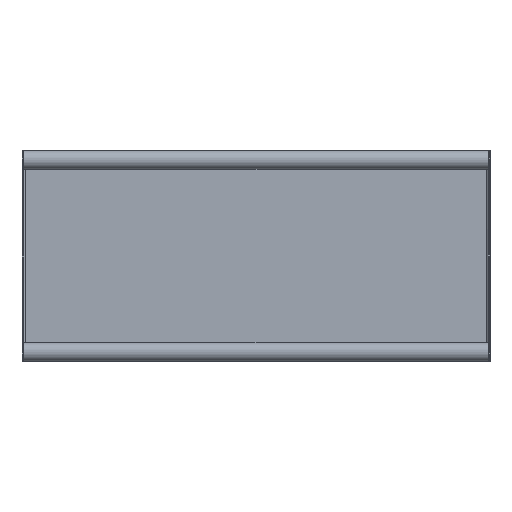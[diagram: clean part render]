
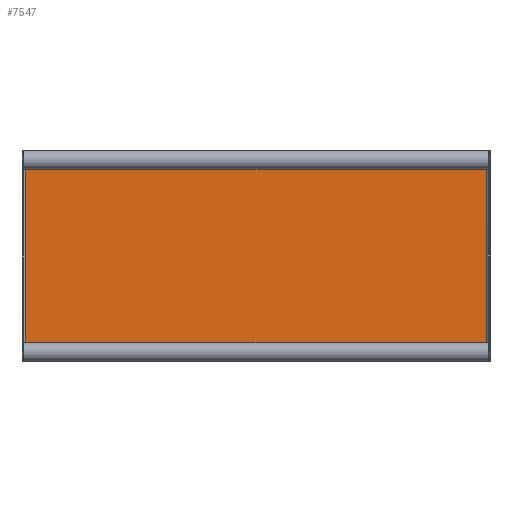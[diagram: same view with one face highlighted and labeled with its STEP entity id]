
A CAD part, front view. The second image highlights one B-rep face of the part: STEP entity #7547.
In plain terms, the highlighted planar face has unit normal (0, -1, 0).
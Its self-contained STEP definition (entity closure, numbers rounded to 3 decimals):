
#82 = CARTESIAN_POINT ( 'NONE',  ( 245., -2., -108.5 ) ) ;
#406 = DIRECTION ( 'NONE',  ( 0., 0., 1. ) ) ;
#441 = VERTEX_POINT ( 'NONE', #2831 ) ;
#469 = ORIENTED_EDGE ( 'NONE', *, *, #2490, .F. ) ;
#489 = DIRECTION ( 'NONE',  ( 0., 1., 0. ) ) ;
#516 = EDGE_CURVE ( 'NONE', #1546, #2596, #5884, .T. ) ;
#536 = ORIENTED_EDGE ( 'NONE', *, *, #1633, .F. ) ;
#566 = DIRECTION ( 'NONE',  ( 0., -1., 0. ) ) ;
#596 = DIRECTION ( 'NONE',  ( 0., -1., 0. ) ) ;
#629 = AXIS2_PLACEMENT_3D ( 'NONE', #2066, #5118, #3514 ) ;
#646 = CARTESIAN_POINT ( 'NONE',  ( 245., -2., 108.5 ) ) ;
#746 = CIRCLE ( 'NONE', #8592, 5. ) ;
#758 = ORIENTED_EDGE ( 'NONE', *, *, #7606, .F. ) ;
#1174 = CARTESIAN_POINT ( 'NONE',  ( 246., -2., -111.5 ) ) ;
#1546 = VERTEX_POINT ( 'NONE', #646 ) ;
#1608 = VECTOR ( 'NONE', #4203, 1000. ) ;
#1633 = EDGE_CURVE ( 'NONE', #5089, #1546, #4723, .T. ) ;
#2066 = CARTESIAN_POINT ( 'NONE',  ( 249., -2., -111.5 ) ) ;
#2255 = CARTESIAN_POINT ( 'NONE',  ( -246., -2., 107.5 ) ) ;
#2350 = CARTESIAN_POINT ( 'NONE',  ( -249., -2., 108.5 ) ) ;
#2490 = EDGE_CURVE ( 'NONE', #5266, #5089, #746, .T. ) ;
#2563 = CARTESIAN_POINT ( 'NONE',  ( -245., -2., 108.5 ) ) ;
#2596 = VERTEX_POINT ( 'NONE', #9187 ) ;
#2696 = LINE ( 'NONE', #8820, #8003 ) ;
#2709 = DIRECTION ( 'NONE',  ( 0., 0., 1. ) ) ;
#2831 = CARTESIAN_POINT ( 'NONE',  ( 246., -2., -107.5 ) ) ;
#2865 = CARTESIAN_POINT ( 'NONE',  ( -249., -2., 111.5 ) ) ;
#2874 = CIRCLE ( 'NONE', #5924, 5. ) ;
#2907 = DIRECTION ( 'NONE',  ( 0., 0., 1. ) ) ;
#3070 = ORIENTED_EDGE ( 'NONE', *, *, #7856, .T. ) ;
#3366 = AXIS2_PLACEMENT_3D ( 'NONE', #9772, #489, #2907 ) ;
#3514 = DIRECTION ( 'NONE',  ( 0., 0., 1. ) ) ;
#3609 = VERTEX_POINT ( 'NONE', #9398 ) ;
#3875 = ORIENTED_EDGE ( 'NONE', *, *, #5430, .F. ) ;
#3912 = DIRECTION ( 'NONE',  ( 1., 0., 0. ) ) ;
#4039 = VERTEX_POINT ( 'NONE', #8022 ) ;
#4110 = AXIS2_PLACEMENT_3D ( 'NONE', #7433, #566, #406 ) ;
#4203 = DIRECTION ( 'NONE',  ( 0., 0., 1. ) ) ;
#4667 = CIRCLE ( 'NONE', #629, 5. ) ;
#4723 = LINE ( 'NONE', #2350, #8431 ) ;
#5011 = DIRECTION ( 'NONE',  ( 0., -1., 0. ) ) ;
#5022 = LINE ( 'NONE', #6563, #5958 ) ;
#5089 = VERTEX_POINT ( 'NONE', #2563 ) ;
#5118 = DIRECTION ( 'NONE',  ( 0., -1., 0. ) ) ;
#5266 = VERTEX_POINT ( 'NONE', #2255 ) ;
#5430 = EDGE_CURVE ( 'NONE', #3609, #4039, #2874, .T. ) ;
#5884 = CIRCLE ( 'NONE', #4110, 5. ) ;
#5912 = CARTESIAN_POINT ( 'NONE',  ( -249., -2., -111.5 ) ) ;
#5924 = AXIS2_PLACEMENT_3D ( 'NONE', #5912, #5011, #8867 ) ;
#5937 = DIRECTION ( 'NONE',  ( 0., 0., 1. ) ) ;
#5958 = VECTOR ( 'NONE', #2709, 1000. ) ;
#6563 = CARTESIAN_POINT ( 'NONE',  ( -246., -2., -111.5 ) ) ;
#6599 = DIRECTION ( 'NONE',  ( 1., 0., 0. ) ) ;
#6705 = PLANE ( 'NONE',  #3366 ) ;
#7284 = VERTEX_POINT ( 'NONE', #82 ) ;
#7354 = FACE_OUTER_BOUND ( 'NONE', #9613, .T. ) ;
#7433 = CARTESIAN_POINT ( 'NONE',  ( 249., -2., 111.5 ) ) ;
#7547 = ADVANCED_FACE ( 'NONE', ( #7354 ), #6705, .F. ) ;
#7606 = EDGE_CURVE ( 'NONE', #441, #7284, #4667, .T. ) ;
#7849 = EDGE_CURVE ( 'NONE', #441, #2596, #9315, .T. ) ;
#7856 = EDGE_CURVE ( 'NONE', #3609, #7284, #2696, .T. ) ;
#8003 = VECTOR ( 'NONE', #6599, 1000. ) ;
#8022 = CARTESIAN_POINT ( 'NONE',  ( -246., -2., -107.5 ) ) ;
#8110 = ORIENTED_EDGE ( 'NONE', *, *, #9057, .F. ) ;
#8431 = VECTOR ( 'NONE', #3912, 1000. ) ;
#8592 = AXIS2_PLACEMENT_3D ( 'NONE', #2865, #596, #5937 ) ;
#8820 = CARTESIAN_POINT ( 'NONE',  ( -249., -2., -108.5 ) ) ;
#8867 = DIRECTION ( 'NONE',  ( 0., 0., 1. ) ) ;
#8910 = ORIENTED_EDGE ( 'NONE', *, *, #7849, .T. ) ;
#9057 = EDGE_CURVE ( 'NONE', #4039, #5266, #5022, .T. ) ;
#9187 = CARTESIAN_POINT ( 'NONE',  ( 246., -2., 107.5 ) ) ;
#9190 = ORIENTED_EDGE ( 'NONE', *, *, #516, .F. ) ;
#9315 = LINE ( 'NONE', #1174, #1608 ) ;
#9398 = CARTESIAN_POINT ( 'NONE',  ( -245., -2., -108.5 ) ) ;
#9613 = EDGE_LOOP ( 'NONE', ( #758, #8910, #9190, #536, #469, #8110, #3875, #3070 ) ) ;
#9772 = CARTESIAN_POINT ( 'NONE',  ( -249., -2., -111.5 ) ) ;
